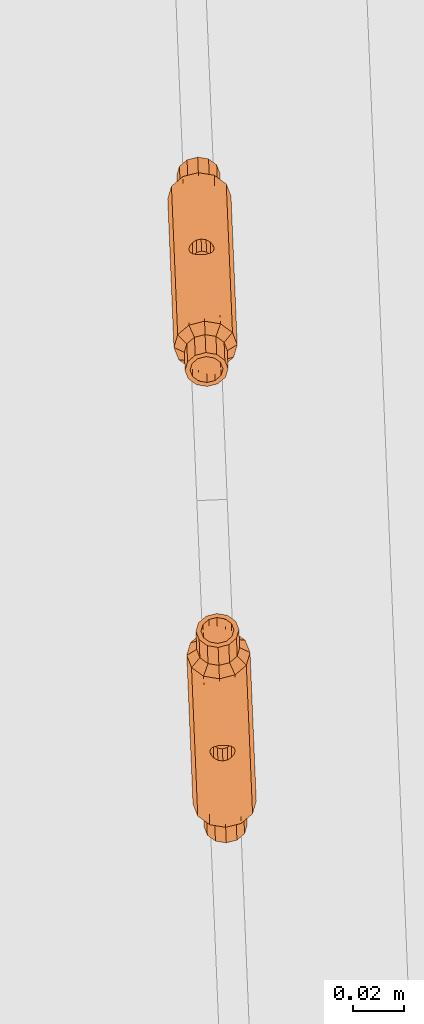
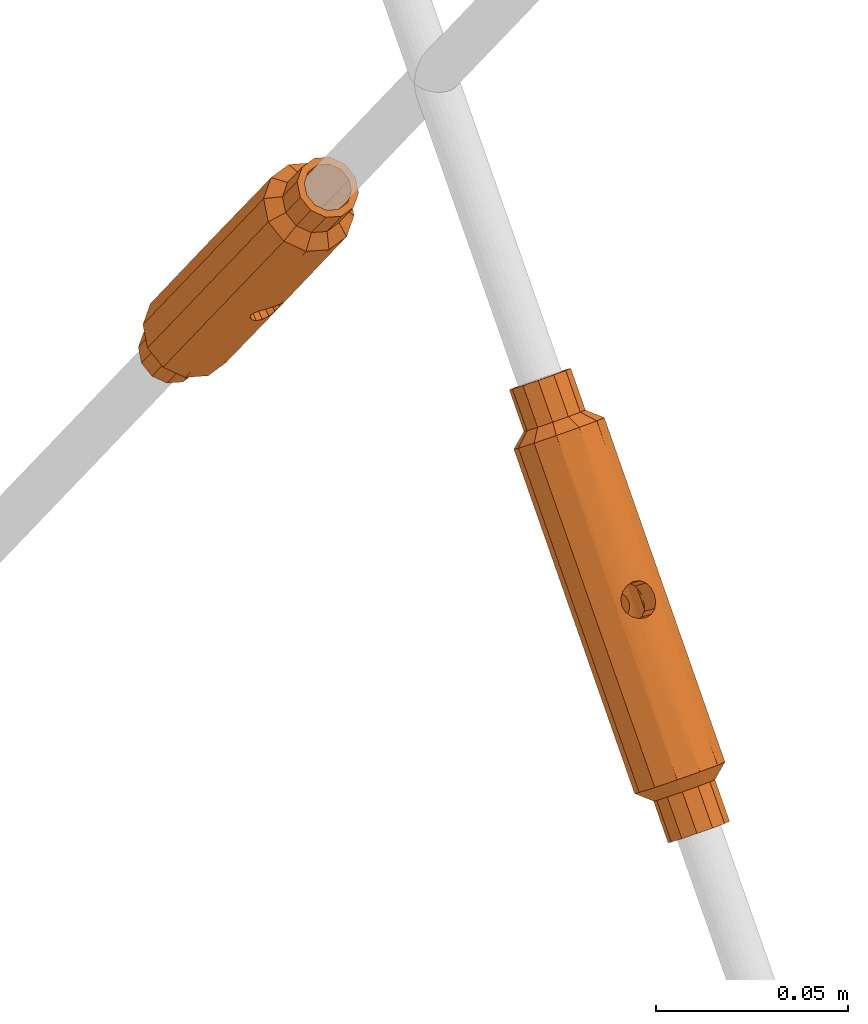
# One storey, part 279 of 288: 2 proxies.
"""IFC2X3 building model written with IfcOpenShell, lengths in millimetres."""

from ifc_helpers import new_model, entity, si_unit, converted_unit, origin_with_axes, place, context, project, spatial, faceted_brep, material, element, save


model = new_model("IFC2X3")

# Units and contexts
model_context = context("Model", 3, precision=1e-09, world=origin_with_axes())
ifc_project = project(units=[si_unit("LENGTHUNIT", "METRE", prefix="MILLI"), si_unit("AREAUNIT", "SQUARE_METRE"), si_unit("VOLUMEUNIT", "CUBIC_METRE"), converted_unit("PLANEANGLEUNIT", "DEGREE", entity("IfcPlaneAngleMeasure", 0.01745329), si_unit("PLANEANGLEUNIT", "RADIAN"), dimensions=[0, 0, 0, 0, 0, 0, 0])], contexts=[model_context])

# Site, building, storey
site_placement = place(None, origin_with_axes())
site = spatial("IfcSite", under=ifc_project, at=site_placement, Name="Remont ?wietlik?w nad MC w NCPP w Opolu", CompositionType="ELEMENT")
building_placement = place(site_placement, origin_with_axes())
building = spatial("IfcBuilding", under=site, at=building_placement, Name="Konstrukcja 1", CompositionType="ELEMENT")
storey_placement = place(building_placement, origin_with_axes())
storey = spatial("IfcBuildingStorey", under=building, at=storey_placement, Name="Default Storey", CompositionType="ELEMENT", Elevation=0.0)

# Proxies
ifc_material = material(Name="Brak")
proxy_1_placement = place(None, origin_with_axes())
element("IfcBuildingElementProxy", 1, at=proxy_1_placement, inside=storey, material=ifc_material, ObjectType="Turnbuckle", context=model_context, shape_type="Brep", body=[
    faceted_brep([(-320.43906601, 4577.616836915, 538.29424586), (-319.32695875, 4576.02005927, 539.00390647), (-319.553573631, 4581.544197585, 543.355855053), (-319.063582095, 4537.036439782, 590.332137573), (-321.842430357, 4573.151824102, 545.129684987), (-320.258710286, 4573.293855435, 543.805847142), (-318.952988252, 4573.984586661, 541.11170988), (-319.227525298, 4573.636719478, 542.042554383), (-319.454614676, 4579.17223111, 546.380002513), (-319.004045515, 4575.20838814, 539.551419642), (-319.114870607, 4580.248364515, 544.76903239), (-322.339310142, 4537.585354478, 590.869865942), (-322.078803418, 4578.817496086, 537.906215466), (-320.685164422, 4582.786480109, 542.31805967), (-324.076710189, 4579.229434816, 537.775591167), (-322.336163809, 4583.670381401, 541.691396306), (-322.28098959, 4614.155107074, 492.009406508), (-317.854750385, 4606.13613089, 500.195391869), (-314.346523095, 4605.7045492, 504.191491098), (-312.468372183, 4600.862492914, 500.332203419), (-316.581613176, 4602.853858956, 497.5793067), (-319.067878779, 4609.109565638, 507.01668576), (-324.273437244, 4583.944823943, 541.480507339), (-323.819317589, 4573.059941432, 545.641409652), (-316.622649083, 4550.499378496, 581.741961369), (-320.503229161, 4578.42563838, 547.877931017), (-322.09859366, 4577.976016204, 548.951448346), (-311.901293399, 4547.094362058, 578.916766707), (-318.875416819, 4574.508849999, 540.259453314), (-316.608477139, 4535.265831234, 588.863036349), (-319.825884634, 4612.384498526, 490.540305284), (-316.850984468, 4609.949997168, 488.533475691), (-318.128127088, 4613.242595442, 491.157791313), (-317.57692778, 4599.47694672, 494.963221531), (-317.849430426, 4606.562460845, 485.909160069), (-322.404885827, 4539.157150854, 592.104837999), (-326.61385365, 4538.085025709, 591.401654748), (-329.620355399, 4535.51023896, 589.480522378), (-330.618801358, 4532.122702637, 586.856206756), (-329.341658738, 4528.830104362, 584.231891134), (-326.131136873, 4526.514693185, 582.310758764), (-321.847492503, 4525.796881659, 581.607575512), (-317.63852468, 4526.869006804, 582.310758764), (-314.632022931, 4529.443793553, 584.231891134), (-313.633576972, 4532.831329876, 586.856206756), (-314.910719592, 4536.12392815, 589.480522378), (-318.121241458, 4538.439339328, 591.401654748), (-327.857022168, 4534.7965395, 588.863036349), (-325.557932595, 4536.765494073, 590.332137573), (-315.631838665, 4532.747961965, 586.856206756), (-316.395356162, 4530.157493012, 584.849377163), (-318.694445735, 4528.18853844, 583.380275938), (-321.913068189, 4527.368678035, 582.84254757), (-325.188796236, 4527.917592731, 583.380275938), (-327.643901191, 4529.688201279, 584.849377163), (-328.620539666, 4532.206070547, 586.856206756), (-325.556717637, 4614.70402177, 492.547134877), (-321.338648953, 4615.55800662, 493.078923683), (-321.055203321, 4608.44428041, 502.11049913), (-325.367355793, 4610.165170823, 508.050778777), (-326.033361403, 4578.652511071, 537.906215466), (-326.181118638, 4583.509969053, 541.691396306), (-325.796988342, 4572.986839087, 545.129684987), (-324.016044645, 4577.77533056, 549.346325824), (-318.417242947, 4545.534256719, 582.35596349), (-322.700887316, 4546.252068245, 583.059146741), (-327.387035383, 4572.996460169, 543.805847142), (-320.855932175, 4603.987674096, 483.988027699), (-325.064899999, 4602.915548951, 483.284844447), (-329.348544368, 4603.633360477, 483.988027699), (-332.559066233, 4605.948771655, 485.909160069), (-333.836208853, 4609.241369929, 488.533475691), (-332.837762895, 4612.628906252, 491.157791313), (-329.831261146, 4615.203693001, 493.078923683), (-325.622293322, 4616.275818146, 493.782106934), (-328.406203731, 4605.036260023, 485.057544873), (-325.130475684, 4604.487345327, 484.519816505), (-321.91185323, 4605.307205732, 485.057544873), (-319.612763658, 4607.276160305, 486.526646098), (-318.84924616, 4609.866629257, 488.533475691), (-328.77534009, 4613.884161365, 492.009406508), (-331.074429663, 4611.915206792, 490.540305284), (-331.837947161, 4609.32473784, 488.533475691), (-330.861308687, 4606.806868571, 486.526646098), (-320.082750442, 4569.076239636, 531.583835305), (-319.026589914, 4568.8204601, 533.347128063), (-321.672797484, 4569.085860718, 530.259997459), (-313.936675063, 4595.880821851, 496.472915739), (-310.023142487, 4542.252305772, 575.057479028), (-315.206721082, 4543.218845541, 580.43483112), (-320.574000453, 4596.91023509, 493.048114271), (-327.752755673, 4582.491618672, 542.31805967), (-327.567391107, 4577.319441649, 538.29424586), (-325.943548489, 4577.815603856, 548.951448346), (-322.922126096, 4551.554983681, 582.776054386), (-327.570820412, 4578.130776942, 547.877931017), (-328.443195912, 4573.252239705, 542.042554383), (-328.67797863, 4578.787430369, 546.380002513), (-328.745754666, 4573.576030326, 541.11170988), (-328.542629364, 4575.635579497, 539.00390647), (-328.776937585, 4581.159396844, 543.355855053), (-318.791807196, 4563.285269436, 529.009679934), (-319.898965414, 4563.941922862, 527.511751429), (-323.650468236, 4569.012758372, 529.748272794), (-321.526237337, 4564.257095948, 526.438234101), (-318.724031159, 4568.496669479, 534.277972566), (-325.325413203, 4609.159840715, 502.811477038), (-328.866725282, 4574.092010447, 540.259453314), (-329.10617907, 4579.831524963, 544.76903239), (-328.796811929, 4574.799831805, 539.551419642), (-326.90985514, 4545.1799431, 582.35596349), (-324.769767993, 4595.841472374, 492.347136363), (-325.627355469, 4568.920875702, 530.259997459), (-323.453741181, 4564.297369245, 526.043356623), (-318.363606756, 4562.241174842, 530.620650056), (-318.358001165, 4592.094370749, 493.647721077), (-311.491445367, 4537.270634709, 571.198191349), (-313.929578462, 4539.926247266, 577.810515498), (-318.603060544, 4567.980689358, 535.130229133), (-331.557014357, 4608.588516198, 507.01668576), (-329.111784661, 4549.978329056, 581.741961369), (-324.547659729, 4590.517716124, 492.61362806), (-325.371192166, 4564.096683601, 526.438234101), (-318.672973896, 4567.272868, 535.838262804), (-329.521180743, 4608.091077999, 502.11049913), (-329.916356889, 4542.605156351, 580.43483112), (-328.242260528, 4568.435980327, 533.347128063), (-327.211075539, 4568.77884437, 531.583835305), (-329.039977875, 4596.557032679, 493.048114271), (-326.966556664, 4563.647061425, 527.511751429), (-318.692848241, 4560.913302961, 532.033827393), (-315.912771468, 4533.484183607, 568.372996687), (-314.92802442, 4536.538710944, 575.186199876), (-318.927156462, 4566.437120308, 536.385775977), (-319.902394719, 4564.753258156, 537.095436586), (-319.717030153, 4559.581081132, 533.071622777), (-321.436424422, 4563.420188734, 537.483466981), (-321.288667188, 4558.562730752, 533.698286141), (-323.393075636, 4562.843264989, 537.61409128), (-328.516797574, 4568.088113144, 534.277972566), (-328.594369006, 4567.563849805, 535.130229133), (-328.015171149, 4562.900468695, 529.009679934), (-328.465740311, 4566.864311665, 535.838262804), (-323.196348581, 4558.127875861, 533.909175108), (-332.518253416, 4605.524366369, 500.195391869), (-335.978340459, 4604.802065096, 504.191491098), (-333.533110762, 4546.191877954, 578.916766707), (-325.390982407, 4563.255203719, 537.483466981), (-327.030719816, 4564.45586289, 537.095436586), (-330.914802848, 4539.217620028, 577.810515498), (-328.142827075, 4566.052640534, 536.385775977), (-328.354915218, 4561.824335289, 530.620650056), (-327.916212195, 4560.52850222, 532.033827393), (-333.51356802, 4602.147454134, 497.5793067), (-332.240430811, 4598.865182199, 494.963221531), (-330.847136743, 4591.573321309, 493.647721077), (-326.784621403, 4559.286219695, 533.071622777), (-325.133622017, 4558.402318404, 533.698286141), (-322.102430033, 4531.907528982, 567.33890367), (-317.934526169, 4533.963924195, 573.265067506), (-337.446643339, 4599.820394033, 500.332203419), (-335.001413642, 4541.210206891, 575.057479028), (-329.637660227, 4535.925021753, 575.186199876), (-328.401907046, 4532.963134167, 568.372996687), (-335.568492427, 4594.978337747, 496.47291574), (-322.143493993, 4532.89179905, 572.561884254), (-333.12326273, 4536.368150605, 571.198191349), (-326.427138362, 4533.609610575, 573.265067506)], [[[0, 1, 2]], [[3, 4, 5]], [[6, 7, 8]], [[9, 10, 2]], [[1, 9, 2]], [[3, 5, 7]], [[3, 11, 4]], [[12, 0, 13]], [[14, 12, 15]], [[16, 1, 0]], [[17, 18, 19, 20]], [[12, 13, 15]], [[0, 2, 13]], [[21, 2, 10]], [[14, 15, 22]], [[11, 23, 4]], [[7, 5, 8]], [[6, 8, 10]], [[24, 21, 10]], [[5, 4, 25]], [[4, 23, 26]], [[21, 24, 27, 18]], [[28, 6, 10]], [[29, 7, 6]], [[9, 28, 10]], [[30, 9, 1]], [[20, 31, 32, 17]], [[33, 34, 31, 20]], [[29, 3, 7]], [[35, 36, 37, 38, 39, 40, 41, 42, 43, 44, 45, 46], [47, 48, 11, 3, 29, 49, 50, 51, 52, 53, 54, 55]], [[16, 0, 12]], [[56, 12, 14]], [[16, 30, 1]], [[17, 32, 57, 58]], [[18, 17, 58, 21]], [[59, 15, 13]], [[21, 13, 2]], [[60, 14, 61]], [[14, 22, 61]], [[59, 22, 15]], [[11, 62, 23]], [[23, 63, 26]], [[5, 25, 8]], [[24, 10, 8]], [[4, 26, 25]], [[46, 64, 65, 35]], [[48, 66, 62]], [[11, 48, 62]], [[67, 68, 69, 70, 71, 72, 73, 74, 57, 32, 31, 34], [75, 76, 77, 78, 79, 30, 16, 56, 80, 81, 82, 83]], [[77, 84, 85]], [[77, 86, 84]], [[77, 76, 86]], [[20, 19, 87, 33]], [[18, 27, 88, 19]], [[64, 46, 45, 89]], [[78, 77, 85]], [[29, 6, 28]], [[30, 28, 9]], [[34, 33, 90, 67]], [[56, 16, 12]], [[56, 14, 60]], [[21, 59, 13]], [[60, 61, 91]], [[59, 61, 22]], [[92, 60, 91]], [[23, 62, 93]], [[23, 93, 63]], [[94, 26, 63]], [[62, 66, 95]], [[66, 96, 97]], [[24, 8, 25]], [[94, 25, 26]], [[24, 64, 89, 27]], [[47, 98, 96]], [[48, 96, 66]], [[99, 92, 100]], [[80, 60, 92]], [[101, 85, 84]], [[102, 84, 86]], [[76, 103, 86]], [[104, 86, 103]], [[101, 105, 85]], [[78, 85, 105]], [[30, 29, 28]], [[80, 56, 60]], [[58, 57, 74, 106]], [[21, 58, 106, 59]], [[59, 91, 61]], [[96, 98, 97]], [[107, 108, 98]], [[107, 109, 108]], [[109, 99, 100]], [[92, 91, 100]], [[62, 95, 93]], [[94, 63, 93]], [[66, 97, 95]], [[94, 24, 25]], [[64, 24, 94, 65]], [[35, 65, 110, 36]], [[81, 109, 107]], [[47, 107, 98]], [[48, 47, 96]], [[80, 92, 99]], [[81, 99, 109]], [[67, 90, 111, 68]], [[102, 101, 84]], [[104, 102, 86]], [[76, 112, 103]], [[113, 104, 103]], [[101, 114, 105]], [[33, 87, 115, 90]], [[19, 88, 116, 87]], [[27, 89, 117, 88]], [[89, 45, 44, 117]], [[114, 118, 105]], [[78, 105, 118]], [[29, 30, 79, 49]], [[59, 119, 91]], [[98, 108, 97]], [[109, 100, 108]], [[119, 100, 91]], [[94, 93, 95]], [[120, 95, 97]], [[47, 81, 107]], [[81, 80, 99]], [[76, 75, 112]], [[115, 101, 102]], [[121, 102, 104]], [[122, 103, 112]], [[122, 113, 103]], [[121, 104, 113]], [[115, 114, 101]], [[114, 123, 118]], [[50, 78, 118]], [[78, 50, 49, 79]], [[106, 74, 73, 124]], [[59, 106, 124, 119]], [[120, 97, 108]], [[119, 108, 100]], [[120, 94, 95]], [[65, 94, 120, 110]], [[36, 110, 125, 37]], [[81, 47, 55, 82]], [[75, 83, 126]], [[75, 127, 112]], [[75, 126, 127]], [[68, 111, 128, 69]], [[90, 115, 121, 111]], [[121, 115, 102]], [[129, 122, 112]], [[121, 113, 122]], [[114, 130, 123]], [[115, 131, 114]], [[87, 116, 131, 115]], [[88, 117, 132, 116]], [[117, 44, 43, 132]], [[130, 133, 123]], [[50, 118, 123]], [[130, 134, 133]], [[135, 136, 134]], [[137, 138, 136]], [[119, 120, 108]], [[83, 139, 126]], [[83, 140, 139]], [[129, 112, 127]], [[127, 126, 141]], [[54, 142, 140]], [[121, 122, 129]], [[137, 143, 138]], [[135, 137, 136]], [[130, 135, 134]], [[131, 130, 114]], [[50, 123, 133]], [[51, 133, 134]], [[51, 134, 136]], [[52, 136, 138]], [[124, 73, 72, 144]], [[119, 124, 144, 145]], [[120, 119, 145, 146]], [[110, 120, 146, 125]], [[52, 138, 147]], [[53, 147, 148]], [[37, 125, 149, 38]], [[53, 148, 150]], [[54, 150, 142]], [[83, 54, 140]], [[82, 55, 54, 83]], [[126, 139, 141]], [[139, 140, 151]], [[127, 141, 129]], [[140, 142, 151]], [[152, 142, 150]], [[71, 153, 144, 72]], [[70, 154, 153, 71]], [[69, 128, 154, 70]], [[111, 121, 155, 128]], [[155, 121, 129]], [[152, 150, 148]], [[156, 148, 147]], [[157, 147, 138]], [[143, 157, 138]], [[158, 143, 137]], [[158, 137, 135]], [[131, 135, 130]], [[116, 132, 159, 131]], [[132, 43, 42, 159]], [[51, 50, 133]], [[52, 51, 136]], [[53, 52, 147]], [[54, 53, 150]], [[139, 151, 141]], [[155, 129, 141]], [[152, 151, 142]], [[156, 152, 148]], [[157, 156, 147]], [[158, 157, 143]], [[131, 158, 135]], [[145, 144, 153, 160]], [[146, 145, 160, 161]], [[125, 146, 161, 149]], [[38, 149, 162, 39]], [[155, 141, 151]], [[163, 151, 152]], [[154, 164, 160, 153]], [[128, 155, 164, 154]], [[163, 152, 156]], [[158, 156, 157]], [[131, 159, 165, 158]], [[159, 42, 41, 165]], [[163, 155, 151]], [[158, 163, 156]], [[161, 160, 164, 166]], [[149, 161, 166, 162]], [[40, 167, 165, 41]], [[39, 162, 167, 40]], [[155, 163, 166, 164]], [[158, 165, 167, 163]], [[162, 166, 163, 167]]]),
])
proxy_2_placement = place(None, origin_with_axes())
element("IfcBuildingElementProxy", 2, at=proxy_2_placement, inside=storey, material=ifc_material, ObjectType="Turnbuckle", context=model_context, shape_type="Brep", body=[
    faceted_brep([(-319.519537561, 4384.362789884, 538.29424586), (-320.631606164, 4385.959594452, 539.00390647), (-320.405125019, 4380.435450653, 543.355855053), (-320.894039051, 4424.943220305, 590.332137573), (-318.11606512, 4388.827768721, 545.129684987), (-319.699788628, 4388.68577573, 543.805847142), (-321.005527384, 4387.995076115, 541.11170988), (-320.730981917, 4388.342936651, 542.042554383), (-320.50402655, 4382.807419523, 546.380002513), (-320.954499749, 4386.7712734, 539.551419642), (-320.843796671, 4381.731294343, 544.76903239), (-317.618324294, 4424.394226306, 590.869865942), (-317.87982922, 4383.162091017, 537.906215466), (-319.273564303, 4379.193140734, 542.31805967), (-315.881932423, 4382.750103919, 537.775591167), (-317.622586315, 4378.309199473, 541.691396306), (-317.678498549, 4347.824475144, 492.009406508), (-322.104543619, 4355.843558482, 500.195391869), (-325.612760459, 4356.275225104, 504.191491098), (-327.490794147, 4361.117326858, 500.332203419), (-323.377601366, 4359.125861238, 497.5793067), (-320.891487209, 4352.870094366, 507.01668576), (-315.685319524, 4378.03471003, 541.480507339), (-316.139175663, 4388.919603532, 545.641409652), (-323.335297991, 4411.480340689, 581.741961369), (-319.45539399, 4383.553986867, 547.877931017), (-317.860018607, 4384.003570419, 548.951448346), (-328.056571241, 4414.885471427, 578.916766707), (-321.083111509, 4387.470814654, 540.259453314), (-323.349101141, 4426.713888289, 588.863036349), (-320.133560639, 4349.595143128, 490.540305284), (-323.108401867, 4352.029716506, 488.533475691), (-321.831338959, 4348.737087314, 491.157791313), (-322.382205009, 4362.502749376, 494.963221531), (-322.109873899, 4355.417228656, 485.909160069), (-317.552786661, 4422.822428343, 592.104837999), (-313.343792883, 4423.894451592, 591.401654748), (-310.337228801, 4426.469165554, 589.480522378), (-309.338700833, 4429.856677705, 586.856206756), (-310.615763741, 4433.149306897, 584.231891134), (-313.826229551, 4435.464795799, 582.310758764), (-318.109856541, 4436.182711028, 581.607575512), (-322.318850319, 4435.11068778, 582.310758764), (-325.325414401, 4432.535973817, 584.231891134), (-326.323942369, 4429.148461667, 586.856206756), (-325.046879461, 4425.855832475, 589.480522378), (-321.836413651, 4423.540343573, 591.401654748), (-312.100544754, 4427.182907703, 588.863036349), (-314.399681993, 4425.21400879, 590.332137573), (-324.325678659, 4429.231781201, 586.856206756), (-323.562098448, 4431.822231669, 584.849377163), (-321.262961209, 4433.791130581, 583.380275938), (-318.044318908, 4434.610913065, 582.84254757), (-314.768604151, 4434.061919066, 583.380275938), (-312.313542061, 4432.291251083, 584.849377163), (-311.336964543, 4429.773358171, 586.856206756), (-314.402783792, 4347.275481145, 492.547134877), (-318.620873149, 4346.421598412, 493.078923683), (-318.904146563, 4353.535331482, 502.11049913), (-314.592035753, 4351.814336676, 508.050778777), (-313.925267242, 4383.326980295, 537.906215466), (-313.777627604, 4378.469518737, 541.691396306), (-314.161503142, 4388.992657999, 545.129684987), (-315.942562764, 4384.204209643, 549.346325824), (-321.540583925, 4416.445419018, 582.35596349), (-317.256956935, 4415.727503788, 583.059146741), (-312.571456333, 4388.982998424, 543.805847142), (-319.103309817, 4357.991942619, 483.988027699), (-314.894316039, 4359.063965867, 483.284844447), (-310.610689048, 4358.346050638, 483.988027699), (-307.400223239, 4356.030561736, 485.909160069), (-306.123160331, 4352.737932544, 488.533475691), (-307.121688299, 4349.350420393, 491.157791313), (-310.128252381, 4346.775706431, 493.078923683), (-314.337246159, 4345.703683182, 493.782106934), (-311.553063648, 4356.943173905, 485.057544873), (-314.828778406, 4357.492167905, 484.519816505), (-318.047420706, 4356.67238542, 485.057544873), (-320.346557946, 4354.703486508, 486.526646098), (-321.110138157, 4352.11303604, 488.533475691), (-311.184141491, 4348.095263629, 492.009406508), (-308.885004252, 4350.064162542, 490.540305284), (-308.121424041, 4352.65461301, 488.533475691), (-309.098001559, 4355.172505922, 486.526646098), (-319.875646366, 4392.903395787, 531.583835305), (-320.931800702, 4393.159200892, 533.347128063), (-318.285599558, 4392.893736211, 530.259997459), (-326.022370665, 4366.098962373, 496.472915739), (-329.934604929, 4419.72757318, 575.057479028), (-324.751049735, 4418.76090792, 580.43483112), (-319.385070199, 4365.069388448, 493.048114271), (-312.205965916, 4379.487831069, 542.31805967), (-312.391205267, 4384.660012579, 538.29424586), (-314.015059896, 4384.163889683, 548.951448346), (-317.035846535, 4410.424582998, 582.776054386), (-312.387795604, 4383.848677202, 547.877931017), (-311.515301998, 4388.727193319, 542.042554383), (-311.280653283, 4383.191996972, 546.380002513), (-311.212751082, 4388.403395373, 541.11170988), (-311.415926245, 4386.34385112, 539.00390647), (-311.181751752, 4380.820028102, 543.355855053), (-321.166449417, 4398.694397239, 529.009679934), (-320.059307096, 4398.037717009, 527.511751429), (-316.307927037, 4392.966790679, 529.748272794), (-318.432042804, 4397.722504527, 526.438234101), (-321.234351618, 4393.482998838, 534.277972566), (-314.633954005, 4352.819667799, 502.811477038), (-311.091792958, 4387.887412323, 540.259453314), (-310.85247812, 4382.147892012, 544.76903239), (-311.161723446, 4387.179592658, 539.551419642), (-313.047963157, 4416.799527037, 582.35596349), (-315.189276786, 4366.138049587, 492.347136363), (-314.33103758, 4393.058625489, 530.259997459), (-316.504539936, 4397.682184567, 526.043356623), (-321.59462458, 4399.738502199, 530.620650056), (-321.600952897, 4369.885306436, 493.647721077), (-328.466181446, 4424.709208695, 571.198191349), (-326.028112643, 4422.053537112, 577.810515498), (-321.355309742, 4393.998981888, 535.130229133), (-308.402339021, 4353.390841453, 507.01668576), (-310.846149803, 4412.001087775, 581.741961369), (-315.411256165, 4371.461811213, 492.61362806), (-314.587084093, 4397.882823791, 526.438234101), (-321.285379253, 4394.706801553, 535.838262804), (-310.438160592, 4353.888328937, 502.11049913), (-310.041399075, 4419.374241, 580.43483112), (-311.716120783, 4393.54345756, 533.347128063), (-312.747314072, 4393.200618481, 531.583835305), (-310.919084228, 4365.422385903, 493.048114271), (-312.991708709, 4398.332407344, 527.511751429), (-321.265350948, 4401.066366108, 532.033827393), (-324.044763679, 4428.495552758, 568.372996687), (-325.029584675, 4425.441049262, 575.186199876), (-321.031176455, 4395.542543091, 536.385775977), (-320.055897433, 4397.226381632, 537.095436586), (-320.241136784, 4402.398563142, 533.071622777), (-318.521835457, 4398.559413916, 537.483466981), (-318.669475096, 4403.416875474, 533.698286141), (-316.565170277, 4399.136290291, 537.61409128), (-311.441575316, 4393.891318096, 534.277972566), (-311.363991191, 4394.415579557, 535.130229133), (-311.94307615, 4399.078974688, 529.009679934), (-311.492602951, 4395.115120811, 535.838262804), (-316.761783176, 4403.85168418, 533.909175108), (-307.441025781, 4356.454968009, 500.195391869), (-303.980921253, 4357.177185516, 504.191491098), (-306.424732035, 4415.787431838, 578.916766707), (-314.56727348, 4398.724303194, 537.483466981), (-312.927565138, 4397.523604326, 537.095436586), (-309.042871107, 4422.76175315, 577.810515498), (-311.815496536, 4395.926799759, 536.385775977), (-311.603306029, 4400.155099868, 530.620650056), (-312.041977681, 4401.450943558, 532.033827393), (-306.445629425, 4359.831856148, 497.5793067), (-307.718687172, 4363.114158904, 494.963221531), (-309.111804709, 4370.406053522, 493.647721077), (-313.173538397, 4402.693253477, 533.071622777), (-314.824516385, 4403.577194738, 533.698286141), (-317.855066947, 4430.072057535, 567.33890367), (-322.023020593, 4428.015763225, 573.265067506), (-302.512497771, 4362.158821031, 500.332203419), (-304.956308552, 4420.769067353, 575.057479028), (-310.319934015, 4426.054382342, 575.186199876), (-311.55561549, 4429.016299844, 568.372996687), (-304.390531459, 4367.000922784, 496.472915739), (-317.814026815, 4429.087786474, 572.561884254), (-306.834342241, 4425.611169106, 571.198191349), (-313.530399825, 4428.369871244, 573.265067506)], [[[0, 1, 2]], [[3, 4, 5]], [[6, 7, 8]], [[9, 10, 2]], [[1, 9, 2]], [[3, 5, 7]], [[3, 11, 4]], [[12, 0, 13]], [[14, 12, 15]], [[16, 1, 0]], [[17, 18, 19, 20]], [[12, 13, 15]], [[0, 2, 13]], [[21, 2, 10]], [[14, 15, 22]], [[11, 23, 4]], [[7, 5, 8]], [[6, 8, 10]], [[24, 21, 10]], [[5, 4, 25]], [[4, 23, 26]], [[21, 24, 27, 18]], [[28, 6, 10]], [[29, 7, 6]], [[9, 28, 10]], [[30, 9, 1]], [[20, 31, 32, 17]], [[33, 34, 31, 20]], [[29, 3, 7]], [[35, 36, 37, 38, 39, 40, 41, 42, 43, 44, 45, 46], [47, 48, 11, 3, 29, 49, 50, 51, 52, 53, 54, 55]], [[16, 0, 12]], [[56, 12, 14]], [[16, 30, 1]], [[17, 32, 57, 58]], [[18, 17, 58, 21]], [[59, 15, 13]], [[21, 13, 2]], [[60, 14, 61]], [[14, 22, 61]], [[59, 22, 15]], [[11, 62, 23]], [[23, 63, 26]], [[5, 25, 8]], [[24, 10, 8]], [[4, 26, 25]], [[46, 64, 65, 35]], [[48, 66, 62]], [[11, 48, 62]], [[67, 68, 69, 70, 71, 72, 73, 74, 57, 32, 31, 34], [75, 76, 77, 78, 79, 30, 16, 56, 80, 81, 82, 83]], [[77, 84, 85]], [[77, 86, 84]], [[77, 76, 86]], [[20, 19, 87, 33]], [[18, 27, 88, 19]], [[64, 46, 45, 89]], [[78, 77, 85]], [[29, 6, 28]], [[30, 28, 9]], [[34, 33, 90, 67]], [[56, 16, 12]], [[56, 14, 60]], [[21, 59, 13]], [[60, 61, 91]], [[59, 61, 22]], [[92, 60, 91]], [[23, 62, 93]], [[23, 93, 63]], [[94, 26, 63]], [[62, 66, 95]], [[66, 96, 97]], [[24, 8, 25]], [[94, 25, 26]], [[24, 64, 89, 27]], [[47, 98, 96]], [[48, 96, 66]], [[99, 92, 100]], [[80, 60, 92]], [[101, 85, 84]], [[102, 84, 86]], [[76, 103, 86]], [[104, 86, 103]], [[101, 105, 85]], [[78, 85, 105]], [[30, 29, 28]], [[80, 56, 60]], [[58, 57, 74, 106]], [[21, 58, 106, 59]], [[59, 91, 61]], [[96, 98, 97]], [[107, 108, 98]], [[107, 109, 108]], [[109, 99, 100]], [[92, 91, 100]], [[62, 95, 93]], [[94, 63, 93]], [[66, 97, 95]], [[94, 24, 25]], [[64, 24, 94, 65]], [[35, 65, 110, 36]], [[81, 109, 107]], [[47, 107, 98]], [[48, 47, 96]], [[80, 92, 99]], [[81, 99, 109]], [[67, 90, 111, 68]], [[102, 101, 84]], [[104, 102, 86]], [[76, 112, 103]], [[113, 104, 103]], [[101, 114, 105]], [[33, 87, 115, 90]], [[19, 88, 116, 87]], [[27, 89, 117, 88]], [[89, 45, 44, 117]], [[114, 118, 105]], [[78, 105, 118]], [[29, 30, 79, 49]], [[59, 119, 91]], [[98, 108, 97]], [[109, 100, 108]], [[119, 100, 91]], [[94, 93, 95]], [[120, 95, 97]], [[47, 81, 107]], [[81, 80, 99]], [[76, 75, 112]], [[115, 101, 102]], [[121, 102, 104]], [[122, 103, 112]], [[122, 113, 103]], [[121, 104, 113]], [[115, 114, 101]], [[114, 123, 118]], [[50, 78, 118]], [[78, 50, 49, 79]], [[106, 74, 73, 124]], [[59, 106, 124, 119]], [[120, 97, 108]], [[119, 108, 100]], [[120, 94, 95]], [[65, 94, 120, 110]], [[36, 110, 125, 37]], [[81, 47, 55, 82]], [[75, 83, 126]], [[75, 127, 112]], [[75, 126, 127]], [[68, 111, 128, 69]], [[90, 115, 121, 111]], [[121, 115, 102]], [[129, 122, 112]], [[121, 113, 122]], [[114, 130, 123]], [[115, 131, 114]], [[87, 116, 131, 115]], [[88, 117, 132, 116]], [[117, 44, 43, 132]], [[130, 133, 123]], [[50, 118, 123]], [[130, 134, 133]], [[135, 136, 134]], [[137, 138, 136]], [[119, 120, 108]], [[83, 139, 126]], [[83, 140, 139]], [[129, 112, 127]], [[127, 126, 141]], [[54, 142, 140]], [[121, 122, 129]], [[137, 143, 138]], [[135, 137, 136]], [[130, 135, 134]], [[131, 130, 114]], [[50, 123, 133]], [[51, 133, 134]], [[51, 134, 136]], [[52, 136, 138]], [[124, 73, 72, 144]], [[119, 124, 144, 145]], [[120, 119, 145, 146]], [[110, 120, 146, 125]], [[52, 138, 147]], [[53, 147, 148]], [[37, 125, 149, 38]], [[53, 148, 150]], [[54, 150, 142]], [[83, 54, 140]], [[82, 55, 54, 83]], [[126, 139, 141]], [[139, 140, 151]], [[127, 141, 129]], [[140, 142, 151]], [[152, 142, 150]], [[71, 153, 144, 72]], [[70, 154, 153, 71]], [[69, 128, 154, 70]], [[111, 121, 155, 128]], [[155, 121, 129]], [[152, 150, 148]], [[156, 148, 147]], [[157, 147, 138]], [[143, 157, 138]], [[158, 143, 137]], [[158, 137, 135]], [[131, 135, 130]], [[116, 132, 159, 131]], [[132, 43, 42, 159]], [[51, 50, 133]], [[52, 51, 136]], [[53, 52, 147]], [[54, 53, 150]], [[139, 151, 141]], [[155, 129, 141]], [[152, 151, 142]], [[156, 152, 148]], [[157, 156, 147]], [[158, 157, 143]], [[131, 158, 135]], [[145, 144, 153, 160]], [[146, 145, 160, 161]], [[125, 146, 161, 149]], [[38, 149, 162, 39]], [[155, 141, 151]], [[163, 151, 152]], [[154, 164, 160, 153]], [[128, 155, 164, 154]], [[163, 152, 156]], [[158, 156, 157]], [[131, 159, 165, 158]], [[159, 42, 41, 165]], [[163, 155, 151]], [[158, 163, 156]], [[161, 160, 164, 166]], [[149, 161, 166, 162]], [[40, 167, 165, 41]], [[39, 162, 167, 40]], [[155, 163, 166, 164]], [[158, 165, 167, 163]], [[162, 166, 163, 167]]]),
])

save(model, "model.ifc")
